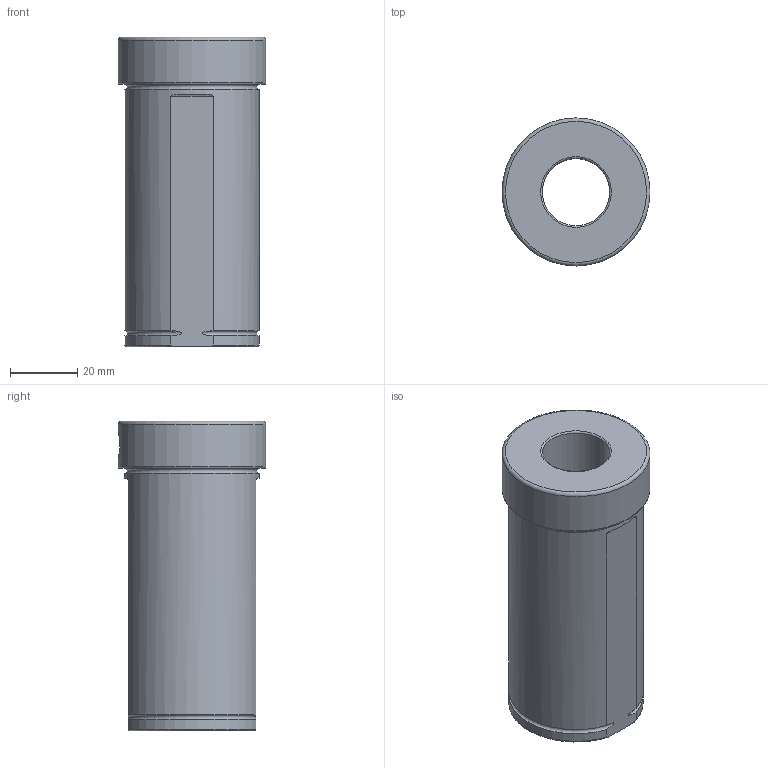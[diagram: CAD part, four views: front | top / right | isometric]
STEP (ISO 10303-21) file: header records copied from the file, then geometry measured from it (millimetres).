
FILE_DESCRIPTION(/* description */ (''),/* implementation_level */ '2;1');
FILE_NAME(/* name */ '',/* time_stamp */ '2025-08-20T15:12:29+03:00',/* author */ ('User'),/* organization */ (''),/* preprocessor_version */ 'ST-DEVELOPER v19.2',/* originating_system */ 'Autodesk Inventor 2024',/* authorisation */ '');
FILE_SCHEMA (('AUTOMOTIVE_DESIGN { 1 0 10303 214 3 1 1 }'));
Length unit declared in the file: millimetre
Products named in the file (1): Втулка переходная 
D40-d6
Bounding box: 44 x 44 x 92 mm (x, y, z)
Volume: 82583.5 mm3; surface area: 21326.8 mm2
Topology: 1 solids, 1 shells, 67 faces, 156 edges, 104 vertices
Faces by surface type: plane 38, cylinder 17, torus 11, bspline 1
Full cylindrical faces by diameter (mm): 7 x3, 7.2 x3, 8 x3, 20 x1, 25 x1, 40 x1, 44 x1
Entity records: 2296 total; most frequent: CARTESIAN_POINT 626, DIRECTION 330, ORIENTED_EDGE 312, EDGE_CURVE 156, AXIS2_PLACEMENT_3D 124, VERTEX_POINT 104, LINE 82, VECTOR 82
